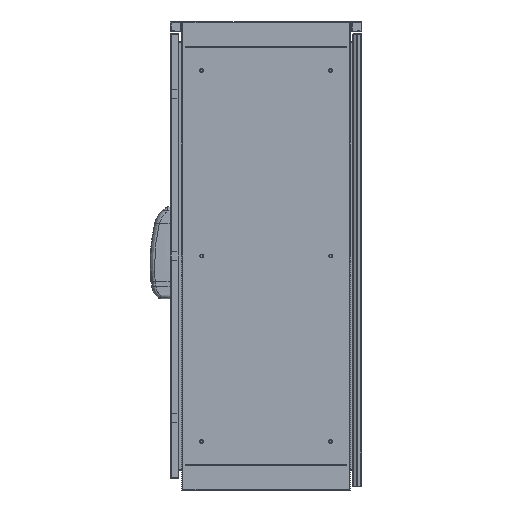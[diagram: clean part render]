
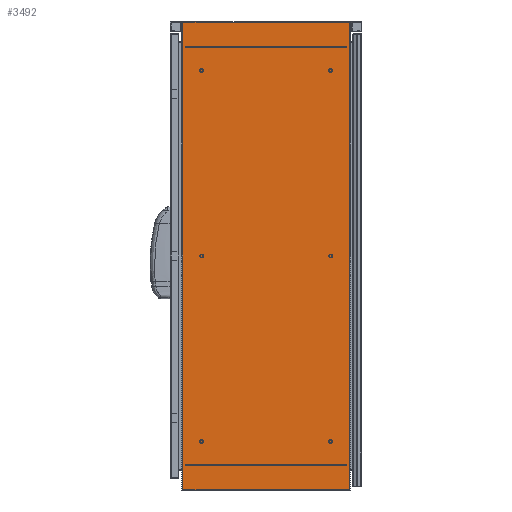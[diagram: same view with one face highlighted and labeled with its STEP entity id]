
A CAD part, left-side view. The second image highlights one B-rep face of the part: STEP entity #3492.
In plain terms, the highlighted planar face has unit normal (-1, 0, 0).
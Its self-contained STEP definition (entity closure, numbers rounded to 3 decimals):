
#194 = CARTESIAN_POINT ( 'NONE',  ( -800., 179.43, 0. ) ) ;
#3492 = ADVANCED_FACE ( 'NONE', ( #9679 ), #65455, .F. ) ;
#4082 = VECTOR ( 'NONE', #39043, 1000. ) ;
#4811 = CARTESIAN_POINT ( 'NONE',  ( -800., -179.43, 1009. ) ) ;
#6580 = VERTEX_POINT ( 'NONE', #79073 ) ;
#7699 = CARTESIAN_POINT ( 'NONE',  ( -800., -179.43, 1009. ) ) ;
#7825 = EDGE_CURVE ( 'NONE', #28795, #55687, #54350, .T. ) ;
#7955 = DIRECTION ( 'NONE',  ( 0., -1., 0. ) ) ;
#9679 = FACE_OUTER_BOUND ( 'NONE', #65133, .T. ) ;
#12402 = CARTESIAN_POINT ( 'NONE',  ( -800., 179.43, 1009. ) ) ;
#13553 = EDGE_CURVE ( 'NONE', #28795, #33579, #14062, .T. ) ;
#14062 = LINE ( 'NONE', #69037, #41429 ) ;
#17238 = ORIENTED_EDGE ( 'NONE', *, *, #49661, .T. ) ;
#28795 = VERTEX_POINT ( 'NONE', #65954 ) ;
#32008 = VECTOR ( 'NONE', #37230, 1000. ) ;
#33579 = VERTEX_POINT ( 'NONE', #4811 ) ;
#34109 = DIRECTION ( 'NONE',  ( 0., 0., -1. ) ) ;
#34509 = DIRECTION ( 'NONE',  ( 1., 0., 0. ) ) ;
#35329 = AXIS2_PLACEMENT_3D ( 'NONE', #46332, #34509, #34109 ) ;
#37230 = DIRECTION ( 'NONE',  ( 0., 0., -1. ) ) ;
#39043 = DIRECTION ( 'NONE',  ( 0., 0., 1. ) ) ;
#41429 = VECTOR ( 'NONE', #7955, 1000. ) ;
#42867 = EDGE_CURVE ( 'NONE', #6580, #33579, #63895, .T. ) ;
#46332 = CARTESIAN_POINT ( 'NONE',  ( -800., 183.5, 1009. ) ) ;
#48181 = VECTOR ( 'NONE', #48298, 1000. ) ;
#48298 = DIRECTION ( 'NONE',  ( 0., -1., 0. ) ) ;
#49079 = LINE ( 'NONE', #55997, #48181 ) ;
#49661 = EDGE_CURVE ( 'NONE', #55687, #6580, #49079, .T. ) ;
#54350 = LINE ( 'NONE', #12402, #32008 ) ;
#55687 = VERTEX_POINT ( 'NONE', #194 ) ;
#55997 = CARTESIAN_POINT ( 'NONE',  ( -800., 183.5, 0. ) ) ;
#57043 = ORIENTED_EDGE ( 'NONE', *, *, #13553, .F. ) ;
#63895 = LINE ( 'NONE', #7699, #4082 ) ;
#64111 = ORIENTED_EDGE ( 'NONE', *, *, #7825, .T. ) ;
#65133 = EDGE_LOOP ( 'NONE', ( #17238, #75145, #57043, #64111 ) ) ;
#65455 = PLANE ( 'NONE',  #35329 ) ;
#65954 = CARTESIAN_POINT ( 'NONE',  ( -800., 179.43, 1009. ) ) ;
#69037 = CARTESIAN_POINT ( 'NONE',  ( -800., 183.5, 1009. ) ) ;
#75145 = ORIENTED_EDGE ( 'NONE', *, *, #42867, .T. ) ;
#79073 = CARTESIAN_POINT ( 'NONE',  ( -800., -179.43, 0. ) ) ;
